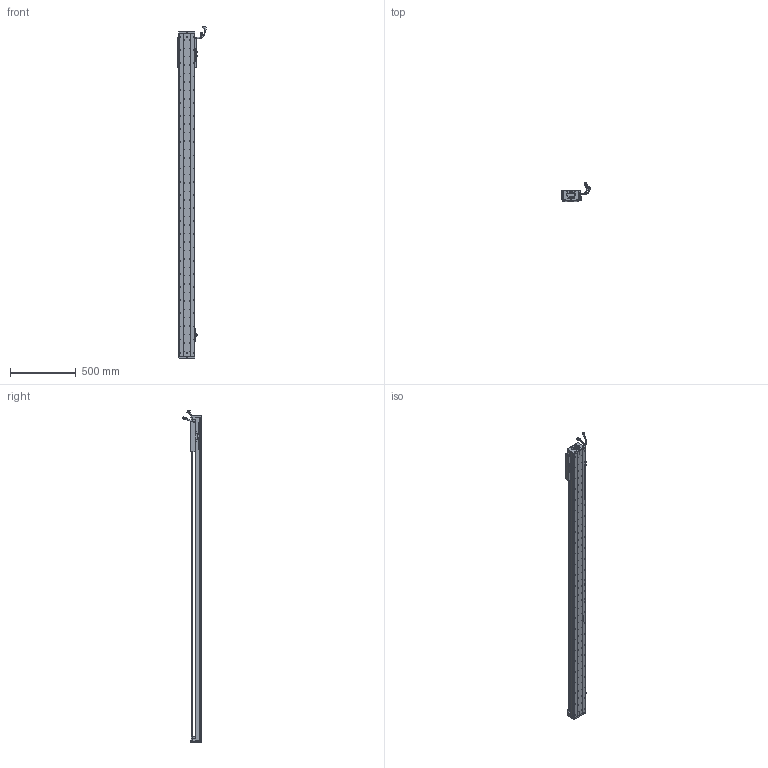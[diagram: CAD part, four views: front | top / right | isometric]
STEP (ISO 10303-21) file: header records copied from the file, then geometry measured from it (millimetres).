
FILE_DESCRIPTION (( 'STEP AP203' ), '1' );
FILE_NAME ('Z3-RY120D-1-L500-B-K.SLDASM_2150.step', '2021-05-17T05:49:25', ( '盈信电脑' ), ( '东莞市道滘镇水果街19号' ), 'SwSTEP 2.0', 'SolidWorks 2016', '' );
FILE_SCHEMA (( 'CONFIG_CONTROL_DESIGN' ));
Length unit declared in the file: millimetre
Products named in the file (37): SCREW-M1.6-1; Z3-RY120铝滑块（21款）; 080黍杅芛假蚾釱21遴; HARNESS-Part-1; PSLH080_PSLF2; SCALE-Part-2; RY100FB-遵嫖萇覜茼え; SCREW-M1.7-1; Z3-RY120-L500詩湍100mm遵_2150; Z3-RY120-500-倰第菁釱_2150; LABEL; SEAL; Z3-RY120D-1-L500-B-K.SLDASM_2150; LABEL-Part-1; 覜茼ん672; COVER-Part-1; COVER; SCREW-M1.6; 榋妏寠巭燃_暯_M2_2; SEAL-Part-1; Z-120詩湍傷裔啣; 140雄赽晤鎢ん堤盄; SCREW-M1.6-2; HARNESS-Part-2; SCREW-M1.7; SCREW-M1.6-3; 120-Z-臏賑輸盄裔(21遴); HARNESS; 672嫖萇羲壽假蚾釱; Z-RY120D詩湍奻揤裔; SCALE; HOLDER0; Z-RY120D詩湍狟揤裔; SHIELDPLATE; SCALE-Part-1; PBU_SHEET; 140蚥薯蝶輸
Assembly tree (43 placements, depth 4):
  Z3-RY120D-1-L500-B-K.SLDASM_2150
    Z3-RY120-500-倰第菁釱_2150
    覜茼ん672  x3
    672嫖萇羲壽假蚾釱  x2
    Z3-RY120铝滑块（21款）
    PSLH080_PSLF2
      SCALE
        SCALE-Part-1
        SCALE-Part-2
      HARNESS
        HARNESS-Part-1
        HARNESS-Part-2
      LABEL
        LABEL-Part-1
      COVER
        COVER-Part-1
      SEAL
        SEAL-Part-1
      榋妏寠巭燃_暯_M2_2
      SHIELDPLATE
      SCREW-M1.7
      SCREW-M1.7-1
      PBU_SHEET
      SCREW-M1.6
      SCREW-M1.6-1
      SCREW-M1.6-2
      SCREW-M1.6-3
      HOLDER0
    080黍杅芛假蚾釱21遴
    120-Z-臏賑輸盄裔(21遴)
    140雄赽晤鎢ん堤盄
    140蚥薯蝶輸  x2
    RY100FB-遵嫖萇覜茼え
    Z-120詩湍傷裔啣  x2
    Z-RY120D詩湍奻揤裔  x2
    Z-RY120D詩湍狟揤裔  x2
    Z3-RY120-L500詩湍100mm遵_2150
Bounding box: 222.88 x 140.94 x 2523.99 mm (x, y, z)
Volume: 5982886.2 mm3; surface area: 2084511.3 mm2
Topology: 38 solids, 38 shells, 3625 faces, 10291 edges, 6494 vertices
Faces by surface type: cylinder 1889, plane 1240, cone 374, torus 69, bspline 53
Entity records: 120918 total; most frequent: CARTESIAN_POINT 36787, ORIENTED_EDGE 17358, DIRECTION 15967, EDGE_CURVE 8679, AXIS2_PLACEMENT_3D 5900, VERTEX_POINT 5614, VECTOR 4167, LINE 4167
